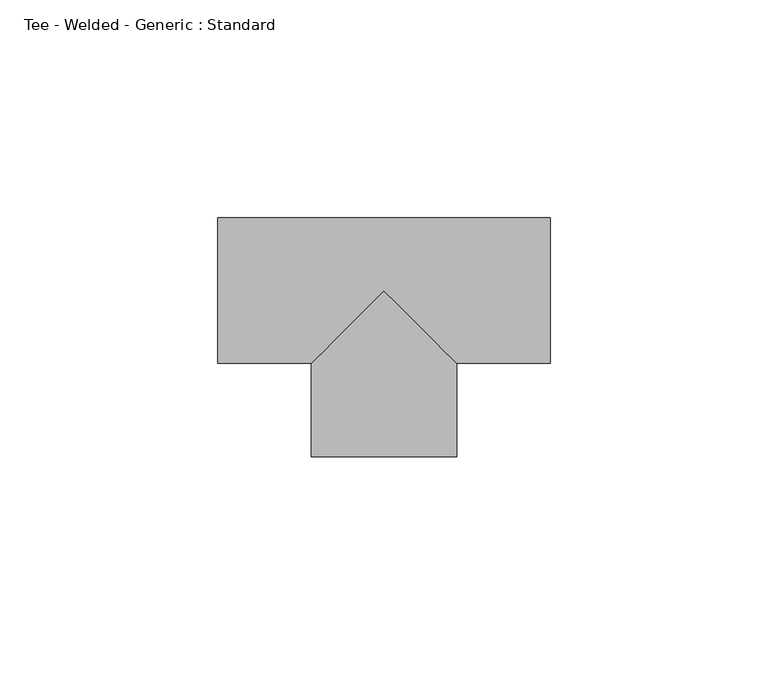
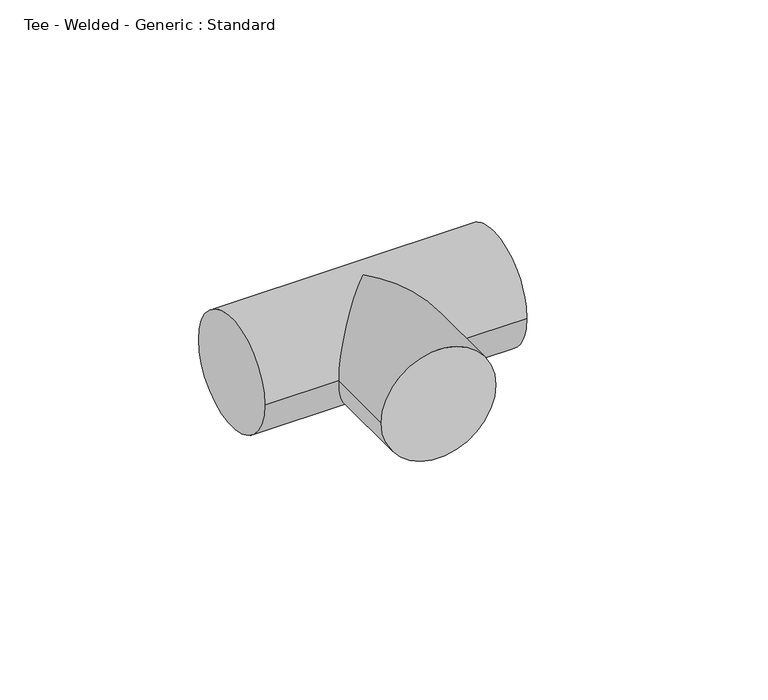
"""IFC4 building model written with IfcOpenShell, lengths in millimetres: pipe fitting geometry, Tee - Welded - Generic : Standard."""

from ifc_helpers import new_model, si_unit, frame, origin, place, context, project, spatial, circle_curve, ellipse_curve, source, transform, mapped, element, save
from ifc_brep_helpers import plane_surface, cylinder_surface, advanced_brep


def tee_welded_generic_standard_d0962fea(model_context):
    return source(origin(), model_context, "Body", "AdvancedBrep", [
        advanced_brep(
        [(-38.1, -16.66875, 0.0), (-38.1, 16.66875, 0.0), (38.1, -16.66875, 0.0), (38.1, 16.66875, 0.0), (-16.6587352, -16.66875, 0.0), (0.0, 0.0, 16.66875), (16.6787709, -16.66875, 0.0), (0.0, 0.0, -16.66875), (-16.6458491, -38.110011, 0.0), (16.6916449, -38.0899753, 0.0)],
        [
            (0, 1, circle_curve(frame((-38.1, 0.0, 0.0), z_axis=(-1.0, 0.0, 0.0), x_axis=(0.0, 1.0, 0.0)), 16.66875)),
            (1, 0, circle_curve(frame((-38.1, 0.0, 0.0), z_axis=(-1.0, 0.0, 0.0), x_axis=(0.0, 1.0, 0.0)), 16.66875)),
            (2, 3, circle_curve(frame((38.1, 0.0, 0.0), z_axis=(1.0, 0.0, 0.0), x_axis=(0.0, 1.0, 0.0)), 16.66875)),
            (3, 2, circle_curve(frame((38.1, 0.0, 0.0), z_axis=(1.0, 0.0, 0.0), x_axis=(0.0, 1.0, 0.0)), 16.66875)),
            (0, 4),
            (4, 5, ellipse_curve(frame((0.0, 0.0, 0.0), z_axis=(-0.7073192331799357, 0.706894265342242, 0.0), x_axis=(-0.7068942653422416, -0.7073192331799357, 0.0)), 23.5660918, 16.66875)),
            (5, 6, ellipse_curve(frame((0.0, 0.0, 0.0), z_axis=(0.7068942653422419, 0.7073192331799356, 0.0), x_axis=(-0.7073192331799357, 0.706894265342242, 0.0)), 23.5802592, 16.66875)),
            (6, 2),
            (3, 1),
            (6, 7, ellipse_curve(frame((0.0, 0.0, 0.0), z_axis=(0.7068942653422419, 0.7073192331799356, 0.0), x_axis=(-0.7073192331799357, 0.706894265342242, 0.0)), 23.5802592, 16.66875)),
            (7, 4, ellipse_curve(frame((0.0, 0.0, 0.0), z_axis=(-0.7073192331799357, 0.706894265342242, 0.0), x_axis=(-0.7068942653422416, -0.7073192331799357, 0.0)), 23.5660918, 16.66875)),
            (8, 9, circle_curve(frame((0.0228979, -38.0999931, 0.0), z_axis=(0.0006009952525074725, -0.999999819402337, 0.0), x_axis=(0.999999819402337, 0.0006009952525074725, 0.0)), 16.66875)),
            (9, 8, circle_curve(frame((0.0228979, -38.0999931, 0.0), z_axis=(0.0006009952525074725, -0.999999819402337, 0.0), x_axis=(0.999999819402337, 0.0006009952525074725, 0.0)), 16.66875)),
            (9, 6),
            (4, 8),
        ],
        [
            plane_surface(frame((-38.1, 0.0, 0.0), z_axis=(-1.0, 0.0, 0.0), x_axis=(0.0, 0.0, 1.0))),
            plane_surface(frame((38.1, 0.0, 0.0), z_axis=(1.0, 0.0, 0.0), x_axis=(0.0, 0.0, 1.0))),
            cylinder_surface(frame((-38.1, 0.0, 0.0), z_axis=(-1.0, 0.0, 0.0), x_axis=(0.0, 1.0, 0.0)), 16.66875),
            plane_surface(frame((0.0228979, -38.0999931, 0.0), z_axis=(0.0006009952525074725, -0.999999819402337, 0.0), x_axis=(0.0, 0.0, 1.0))),
            cylinder_surface(frame((0.0, 0.0, 0.0), z_axis=(-0.0006009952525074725, 0.999999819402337, 0.0), x_axis=(0.999999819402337, 0.0006009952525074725, 0.0)), 16.66875),
        ],
        [
            (0, [[1, 2]]),
            (1, [[3, 4]]),
            (2, [[-1, 5, 6, 7, 8, -4, 9]]),
            (2, [[-2, -9, -3, -8, 10, 11, -5]]),
            (3, [[12, 13]]),
            (4, [[-13, 14, -7, -6, 15]]),
            (4, [[-12, -15, -11, -10, -14]]),
        ],
    ),
    ])


if __name__ == "__main__":
    model = new_model("IFC4")
    model_context = context("Model", 3, world=origin())
    ifc_project = project(units=[si_unit("LENGTHUNIT", "METRE", prefix="MILLI")], contexts=[model_context])
    site = spatial("IfcSite", under=ifc_project)
    building = spatial("IfcBuilding", under=site)
    placement = place(None, origin())
    tee_welded_generic_standard_shape = tee_welded_generic_standard_d0962fea(model_context)
    element("IfcPipeFitting", 1, ObjectType="Tee - Welded - Generic : Standard", at=placement, inside=building, context=model_context, shape_type="MappedRepresentation", body=[
        mapped(tee_welded_generic_standard_shape, transform((0.0, 0.0, 0.0), x_axis=(1.0, 0.0, 0.0), y_axis=(0.0, 1.0, 0.0), z_axis=(0.0, 0.0, 1.0))),
    ])
    save(model, "model.ifc")
